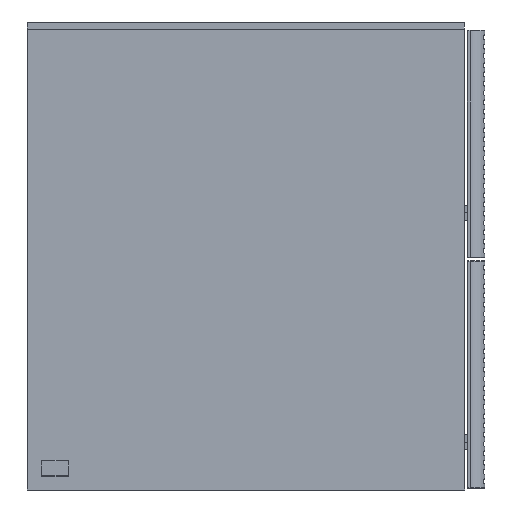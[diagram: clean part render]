
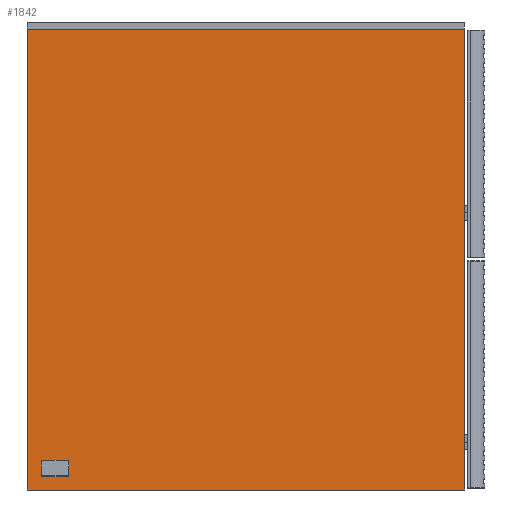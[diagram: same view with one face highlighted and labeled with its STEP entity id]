
A CAD part, left-side view. The second image highlights one B-rep face of the part: STEP entity #1842.
In plain terms, the highlighted planar face has unit normal (-1, 0, 0).
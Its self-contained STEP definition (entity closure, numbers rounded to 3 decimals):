
#1769=CARTESIAN_POINT('',(8472.202,449.318,1348.0));
#1770=VERTEX_POINT('',#1769);
#1777=CARTESIAN_POINT('',(8472.202,-21.682,1348.0));
#1778=VERTEX_POINT('',#1777);
#1779=CARTESIAN_POINT('',(8472.202,449.318,1348.0));
#1780=DIRECTION('',(0.0,-1.0,0.0));
#1781=VECTOR('',#1780,471.);
#1782=LINE('',#1779,#1781);
#1783=EDGE_CURVE('',#1770,#1778,#1782,.T.);
#1801=CARTESIAN_POINT('',(8472.202,-21.682,852.0));
#1802=VERTEX_POINT('',#1801);
#1803=CARTESIAN_POINT('',(8472.202,-21.682,1348.0));
#1804=DIRECTION('',(0.0,0.0,-1.0));
#1805=VECTOR('',#1804,496.);
#1806=LINE('',#1803,#1805);
#1807=EDGE_CURVE('',#1778,#1802,#1806,.T.);
#1819=CARTESIAN_POINT('',(8472.202,213.818,851.999));
#1820=DIRECTION('',(-1.0,0.0,0.0));
#1821=DIRECTION('',(0.0,0.0,1.0));
#1822=AXIS2_PLACEMENT_3D('',#1819,#1820,#1821);
#1823=PLANE('',#1822);
#1824=ORIENTED_EDGE('',*,*,#1807,.F.);
#1825=ORIENTED_EDGE('',*,*,#1783,.F.);
#1826=CARTESIAN_POINT('',(8472.202,449.318,852.0));
#1827=VERTEX_POINT('',#1826);
#1828=CARTESIAN_POINT('',(8472.202,449.318,852.0));
#1829=DIRECTION('',(0.0,0.0,1.0));
#1830=VECTOR('',#1829,496.0);
#1831=LINE('',#1828,#1830);
#1832=EDGE_CURVE('',#1827,#1770,#1831,.T.);
#1833=ORIENTED_EDGE('',*,*,#1832,.F.);
#1834=CARTESIAN_POINT('',(8472.202,449.318,852.0));
#1835=DIRECTION('',(0.0,-1.0,0.0));
#1836=VECTOR('',#1835,471.);
#1837=LINE('',#1834,#1836);
#1838=EDGE_CURVE('',#1827,#1802,#1837,.T.);
#1839=ORIENTED_EDGE('',*,*,#1838,.T.);
#1840=EDGE_LOOP('',(#1824,#1825,#1833,#1839));
#1841=FACE_OUTER_BOUND('',#1840,.T.);
#1842=ADVANCED_FACE('',(#1841),#1823,.T.);
